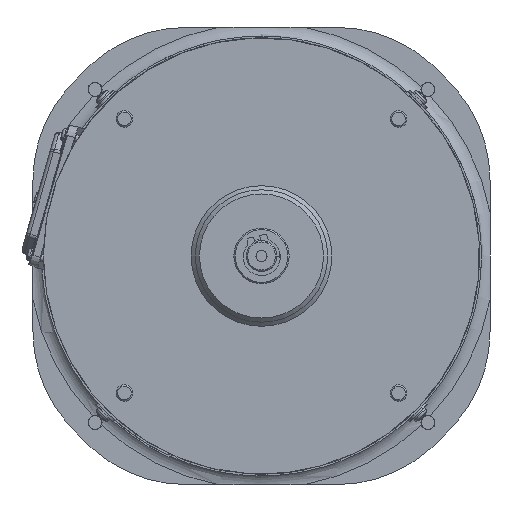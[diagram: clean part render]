
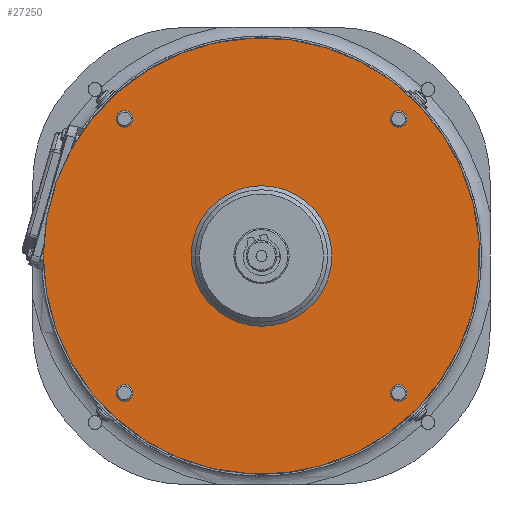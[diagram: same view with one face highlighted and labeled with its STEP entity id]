
A CAD part, front view. The second image highlights one B-rep face of the part: STEP entity #27250.
In plain terms, the highlighted planar face has unit normal (0, -1, 0).
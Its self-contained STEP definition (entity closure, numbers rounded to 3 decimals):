
#5348=FACE_BOUND('',#7452,.T.);
#5349=FACE_BOUND('',#7453,.T.);
#5350=FACE_BOUND('',#7454,.T.);
#5351=FACE_BOUND('',#7455,.T.);
#5352=FACE_BOUND('',#7456,.T.);
#5917=FACE_OUTER_BOUND('',#7451,.T.);
#7451=EDGE_LOOP('',(#17917));
#7452=EDGE_LOOP('',(#17918));
#7453=EDGE_LOOP('',(#17919));
#7454=EDGE_LOOP('',(#17920));
#7455=EDGE_LOOP('',(#17921));
#7456=EDGE_LOOP('',(#17922));
#9057=CIRCLE('',#29029,157.5);
#9058=CIRCLE('',#29030,50.8);
#9059=CIRCLE('',#29031,6.);
#9060=CIRCLE('',#29032,6.);
#9061=CIRCLE('',#29033,6.);
#9062=CIRCLE('',#29034,6.);
#10283=VERTEX_POINT('',#43347);
#10284=VERTEX_POINT('',#43349);
#10285=VERTEX_POINT('',#43351);
#10286=VERTEX_POINT('',#43353);
#10287=VERTEX_POINT('',#43355);
#10288=VERTEX_POINT('',#43357);
#13150=EDGE_CURVE('',#10283,#10283,#9057,.T.);
#13151=EDGE_CURVE('',#10284,#10284,#9058,.T.);
#13152=EDGE_CURVE('',#10285,#10285,#9059,.T.);
#13153=EDGE_CURVE('',#10286,#10286,#9060,.T.);
#13154=EDGE_CURVE('',#10287,#10287,#9061,.T.);
#13155=EDGE_CURVE('',#10288,#10288,#9062,.T.);
#17917=ORIENTED_EDGE('',*,*,#13150,.T.);
#17918=ORIENTED_EDGE('',*,*,#13151,.F.);
#17919=ORIENTED_EDGE('',*,*,#13152,.F.);
#17920=ORIENTED_EDGE('',*,*,#13153,.F.);
#17921=ORIENTED_EDGE('',*,*,#13154,.F.);
#17922=ORIENTED_EDGE('',*,*,#13155,.F.);
#24681=PLANE('',#29028);
#27250=ADVANCED_FACE('',(#5917,#5348,#5349,#5350,#5351,#5352),#24681,.F.);
#29028=AXIS2_PLACEMENT_3D('',#43346,#32785,#32786);
#29029=AXIS2_PLACEMENT_3D('',#43348,#32787,#32788);
#29030=AXIS2_PLACEMENT_3D('',#43350,#32789,#32790);
#29031=AXIS2_PLACEMENT_3D('',#43352,#32791,#32792);
#29032=AXIS2_PLACEMENT_3D('',#43354,#32793,#32794);
#29033=AXIS2_PLACEMENT_3D('',#43356,#32795,#32796);
#29034=AXIS2_PLACEMENT_3D('',#43358,#32797,#32798);
#32785=DIRECTION('center_axis',(0.,1.,0.));
#32786=DIRECTION('ref_axis',(0.707,0.,-0.707));
#32787=DIRECTION('center_axis',(0.,-1.,0.));
#32788=DIRECTION('ref_axis',(-0.707,0.,0.707));
#32789=DIRECTION('center_axis',(0.,-1.,0.));
#32790=DIRECTION('ref_axis',(0.,0.,
1.));
#32791=DIRECTION('center_axis',(0.,-1.,0.));
#32792=DIRECTION('ref_axis',(-1.,0.,-0.031));
#32793=DIRECTION('center_axis',(0.,-1.,0.));
#32794=DIRECTION('ref_axis',(-0.031,0.,
1.));
#32795=DIRECTION('center_axis',(0.,-1.,0.));
#32796=DIRECTION('ref_axis',(1.,0.,0.031));
#32797=DIRECTION('center_axis',(0.,-1.,0.));
#32798=DIRECTION('ref_axis',(0.031,0.,-1.));
#43346=CARTESIAN_POINT('Origin',(-17.313,-222.977,6.923));
#43347=CARTESIAN_POINT('',(94.056,-222.977,-104.446));
#43348=CARTESIAN_POINT('Origin',(-17.313,-222.977,6.923));
#43349=CARTESIAN_POINT('',(-17.313,-222.977,-43.877));
#43350=CARTESIAN_POINT('Origin',(-17.313,-222.977,6.923));
#43351=CARTESIAN_POINT('',(87.679,-222.977,-91.888));
#43352=CARTESIAN_POINT('Origin',(81.682,-222.977,-92.072));
#43353=CARTESIAN_POINT('',(-116.124,-222.977,-98.069));
#43354=CARTESIAN_POINT('Origin',(-116.308,-222.977,-92.072));
#43355=CARTESIAN_POINT('',(-122.305,-222.977,105.735));
#43356=CARTESIAN_POINT('Origin',(-116.308,-222.977,105.918));
#43357=CARTESIAN_POINT('',(81.498,-222.977,111.916));
#43358=CARTESIAN_POINT('Origin',(81.682,-222.977,105.918));
